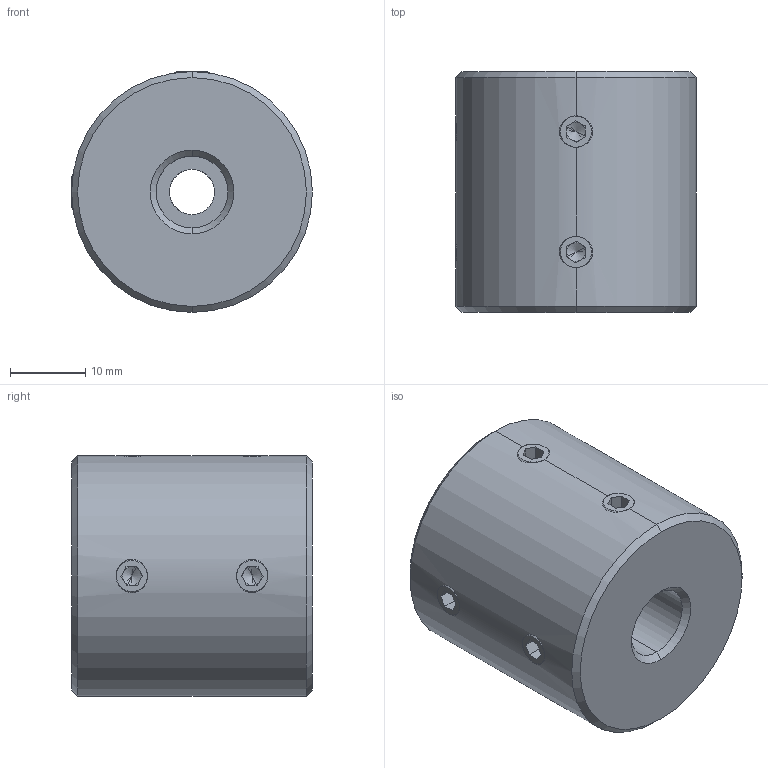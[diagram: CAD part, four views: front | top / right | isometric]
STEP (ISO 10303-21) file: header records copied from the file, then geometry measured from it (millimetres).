
FILE_DESCRIPTION (( 'STEP AP203' ), '1' );
FILE_NAME ('LL-D-D32L32-6-9.525½¨Ä£.STEP', '2022-07-22T11:17:45', ( '' ), ( '' ), 'SwSTEP 2.0', 'SolidWorks 2022', '' );
FILE_SCHEMA (( 'CONFIG_CONTROL_DESIGN' ));
Length unit declared in the file: millimetre
Products named in the file (1): LL-D-D32L32-6-9.525膘耀
Bounding box: 32 x 32 x 32 mm (x, y, z)
Volume: 23777.4 mm3; surface area: 5763.8 mm2
Topology: 1 solids, 1 shells, 113 faces, 286 edges, 176 vertices
Faces by surface type: plane 59, cone 32, cylinder 22
Entity records: 3789 total; most frequent: CARTESIAN_POINT 1036, DIRECTION 558, ORIENTED_EDGE 556, EDGE_CURVE 278, AXIS2_PLACEMENT_3D 206, VERTEX_POINT 176, VECTOR 146, LINE 146
